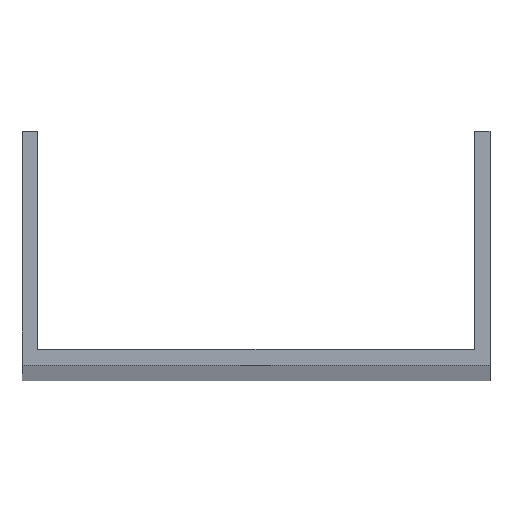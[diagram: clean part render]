
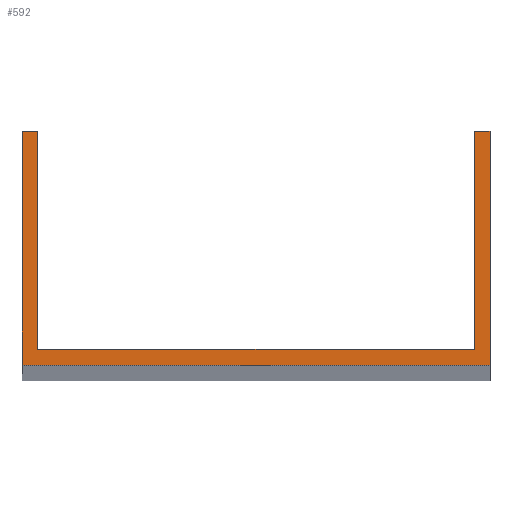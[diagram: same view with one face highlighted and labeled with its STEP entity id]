
A CAD part, top view. The second image highlights one B-rep face of the part: STEP entity #592.
In plain terms, the highlighted planar face has unit normal (0, 0, 1).
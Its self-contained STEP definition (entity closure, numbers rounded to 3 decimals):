
#1 = CARTESIAN_POINT ( 'NONE',  ( -52., 3.5, 1000. ) ) ;
#13 = LINE ( 'NONE', #1, #236 ) ;
#16 = CARTESIAN_POINT ( 'NONE',  ( -52., 52., 1000. ) ) ;
#37 = EDGE_LOOP ( 'NONE', ( #945, #227, #1120, #138, #741, #558, #472, #390 ) ) ;
#60 = CARTESIAN_POINT ( 'NONE',  ( -48.5, 52., 1000. ) ) ;
#69 = DIRECTION ( 'NONE',  ( -1., 0., 0. ) ) ;
#73 = AXIS2_PLACEMENT_3D ( 'NONE', #810, #199, #534 ) ;
#74 = CARTESIAN_POINT ( 'NONE',  ( 52., 52., 1000. ) ) ;
#89 = CARTESIAN_POINT ( 'NONE',  ( -52., 52., 1000. ) ) ;
#94 = CARTESIAN_POINT ( 'NONE',  ( -52., 0., 1000. ) ) ;
#102 = LINE ( 'NONE', #16, #186 ) ;
#138 = ORIENTED_EDGE ( 'NONE', *, *, #1086, .T. ) ;
#140 = EDGE_CURVE ( 'NONE', #385, #479, #516, .T. ) ;
#161 = CARTESIAN_POINT ( 'NONE',  ( -48.5, 52., 1000. ) ) ;
#186 = VECTOR ( 'NONE', #1072, 1000. ) ;
#197 = CARTESIAN_POINT ( 'NONE',  ( -52., 52., 1000. ) ) ;
#199 = DIRECTION ( 'NONE',  ( 0., 0., 1. ) ) ;
#203 = VECTOR ( 'NONE', #69, 1000. ) ;
#227 = ORIENTED_EDGE ( 'NONE', *, *, #1030, .T. ) ;
#236 = VECTOR ( 'NONE', #513, 1000. ) ;
#265 = FACE_OUTER_BOUND ( 'NONE', #37, .T. ) ;
#267 = LINE ( 'NONE', #606, #1023 ) ;
#312 = EDGE_CURVE ( 'NONE', #772, #323, #102, .T. ) ;
#323 = VERTEX_POINT ( 'NONE', #634 ) ;
#324 = EDGE_CURVE ( 'NONE', #649, #332, #13, .T. ) ;
#332 = VERTEX_POINT ( 'NONE', #353 ) ;
#353 = CARTESIAN_POINT ( 'NONE',  ( 48.5, 3.5, 1000. ) ) ;
#358 = CARTESIAN_POINT ( 'NONE',  ( -48.5, 3.5, 1000. ) ) ;
#375 = VECTOR ( 'NONE', #626, 1000. ) ;
#380 = EDGE_CURVE ( 'NONE', #689, #385, #267, .T. ) ;
#385 = VERTEX_POINT ( 'NONE', #74 ) ;
#390 = ORIENTED_EDGE ( 'NONE', *, *, #324, .F. ) ;
#424 = LINE ( 'NONE', #161, #1066 ) ;
#450 = DIRECTION ( 'NONE',  ( 1., 0., 0. ) ) ;
#461 = EDGE_CURVE ( 'NONE', #464, #649, #424, .T. ) ;
#464 = VERTEX_POINT ( 'NONE', #60 ) ;
#472 = ORIENTED_EDGE ( 'NONE', *, *, #561, .F. ) ;
#479 = VERTEX_POINT ( 'NONE', #1128 ) ;
#513 = DIRECTION ( 'NONE',  ( 1., 0., 0. ) ) ;
#516 = LINE ( 'NONE', #89, #203 ) ;
#534 = DIRECTION ( 'NONE',  ( 1., 0., 0. ) ) ;
#543 = LINE ( 'NONE', #94, #795 ) ;
#558 = ORIENTED_EDGE ( 'NONE', *, *, #140, .T. ) ;
#561 = EDGE_CURVE ( 'NONE', #332, #479, #853, .T. ) ;
#592 = ADVANCED_FACE ( 'NONE', ( #265 ), #635, .T. ) ;
#606 = CARTESIAN_POINT ( 'NONE',  ( 52., 52., 1000. ) ) ;
#626 = DIRECTION ( 'NONE',  ( -1., 0., 0. ) ) ;
#634 = CARTESIAN_POINT ( 'NONE',  ( -52., 0., 1000. ) ) ;
#635 = PLANE ( 'NONE',  #73 ) ;
#649 = VERTEX_POINT ( 'NONE', #358 ) ;
#689 = VERTEX_POINT ( 'NONE', #915 ) ;
#698 = DIRECTION ( 'NONE',  ( 0., 1., 0. ) ) ;
#741 = ORIENTED_EDGE ( 'NONE', *, *, #380, .T. ) ;
#772 = VERTEX_POINT ( 'NONE', #1009 ) ;
#795 = VECTOR ( 'NONE', #450, 1000. ) ;
#808 = LINE ( 'NONE', #197, #375 ) ;
#810 = CARTESIAN_POINT ( 'NONE',  ( 0., 0., 1000. ) ) ;
#853 = LINE ( 'NONE', #1049, #1117 ) ;
#863 = DIRECTION ( 'NONE',  ( 0., -1., 0. ) ) ;
#915 = CARTESIAN_POINT ( 'NONE',  ( 52., 0., 1000. ) ) ;
#945 = ORIENTED_EDGE ( 'NONE', *, *, #461, .F. ) ;
#975 = DIRECTION ( 'NONE',  ( 0., 1., 0. ) ) ;
#1009 = CARTESIAN_POINT ( 'NONE',  ( -52., 52., 1000. ) ) ;
#1023 = VECTOR ( 'NONE', #698, 1000. ) ;
#1030 = EDGE_CURVE ( 'NONE', #464, #772, #808, .T. ) ;
#1049 = CARTESIAN_POINT ( 'NONE',  ( 48.5, 52., 1000. ) ) ;
#1066 = VECTOR ( 'NONE', #863, 1000. ) ;
#1072 = DIRECTION ( 'NONE',  ( 0., -1., 0. ) ) ;
#1086 = EDGE_CURVE ( 'NONE', #323, #689, #543, .T. ) ;
#1117 = VECTOR ( 'NONE', #975, 1000. ) ;
#1120 = ORIENTED_EDGE ( 'NONE', *, *, #312, .T. ) ;
#1128 = CARTESIAN_POINT ( 'NONE',  ( 48.5, 52., 1000. ) ) ;
